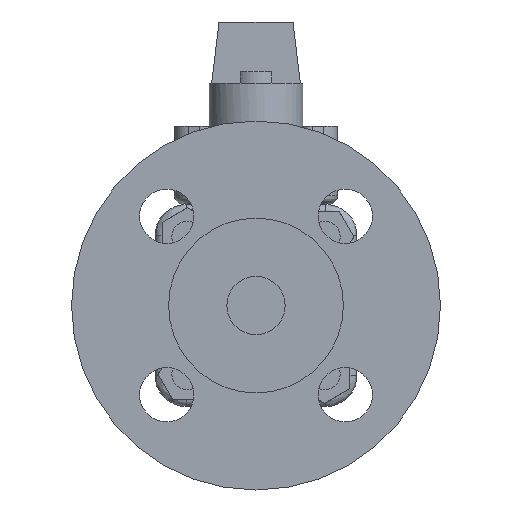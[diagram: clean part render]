
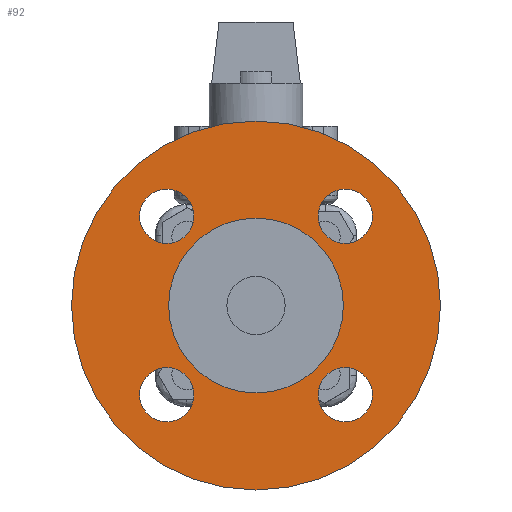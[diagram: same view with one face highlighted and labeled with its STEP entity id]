
A CAD part, left-side view. The second image highlights one B-rep face of the part: STEP entity #92.
In plain terms, the highlighted planar face has unit normal (-1, 0, 0).
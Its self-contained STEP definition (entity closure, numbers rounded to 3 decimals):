
#92=ADVANCED_FACE('',(#472,#473,#474,#475,#476,#477),#471,.T.);
#471=PLANE('',#2621);
#472=FACE_OUTER_BOUND('',#2622,.T.);
#473=FACE_BOUND('',#2623,.T.);
#474=FACE_BOUND('',#2624,.T.);
#475=FACE_BOUND('',#2625,.T.);
#476=FACE_BOUND('',#2626,.T.);
#477=FACE_BOUND('',#2627,.T.);
#2618=CARTESIAN_POINT('',(-66.3,-92.272,-105.));
#2619=DIRECTION('',(-1.,0.,0.));
#2620=DIRECTION('',(0.,0.,1.));
#2621=AXIS2_PLACEMENT_3D('',#2618,#2619,#2620);
#2622=EDGE_LOOP('',(#4212,#4213));
#2623=EDGE_LOOP('',(#4214,#4215));
#2624=EDGE_LOOP('',(#4216,#4217));
#2625=EDGE_LOOP('',(#4218,#4219));
#2626=EDGE_LOOP('',(#4220,#4221));
#2627=EDGE_LOOP('',(#4222,#4223));
#4212=ORIENTED_EDGE('',*,*,#5366,.T.);
#4213=ORIENTED_EDGE('',*,*,#5367,.T.);
#4214=ORIENTED_EDGE('',*,*,#5368,.F.);
#4215=ORIENTED_EDGE('',*,*,#5369,.F.);
#4216=ORIENTED_EDGE('',*,*,#5370,.F.);
#4217=ORIENTED_EDGE('',*,*,#5371,.F.);
#4218=ORIENTED_EDGE('',*,*,#5372,.F.);
#4219=ORIENTED_EDGE('',*,*,#5373,.F.);
#4220=ORIENTED_EDGE('',*,*,#5374,.F.);
#4221=ORIENTED_EDGE('',*,*,#5375,.F.);
#4222=ORIENTED_EDGE('',*,*,#5376,.F.);
#4223=ORIENTED_EDGE('',*,*,#5377,.F.);
#5366=EDGE_CURVE('',#6679,#6680,#6681,.T.);
#5367=EDGE_CURVE('',#6680,#6679,#6687,.T.);
#5368=EDGE_CURVE('',#6693,#6694,#6695,.T.);
#5369=EDGE_CURVE('',#6694,#6693,#6701,.T.);
#5370=EDGE_CURVE('',#6707,#6708,#6709,.T.);
#5371=EDGE_CURVE('',#6708,#6707,#6715,.T.);
#5372=EDGE_CURVE('',#6721,#6722,#6723,.T.);
#5373=EDGE_CURVE('',#6722,#6721,#6729,.T.);
#5374=EDGE_CURVE('',#6735,#6736,#6737,.T.);
#5375=EDGE_CURVE('',#6736,#6735,#6743,.T.);
#5376=EDGE_CURVE('',#6749,#6750,#6751,.T.);
#5377=EDGE_CURVE('',#6750,#6749,#6757,.T.);
#6679=VERTEX_POINT('',#10253);
#6680=VERTEX_POINT('',#10254);
#6681=CIRCLE('',#10258,47.5);
#6687=CIRCLE('',#10262,47.5);
#6693=VERTEX_POINT('',#10263);
#6694=VERTEX_POINT('',#10264);
#6695=CIRCLE('',#10268,7.);
#6701=CIRCLE('',#10272,7.);
#6707=VERTEX_POINT('',#10273);
#6708=VERTEX_POINT('',#10274);
#6709=CIRCLE('',#10278,7.);
#6715=CIRCLE('',#10282,7.);
#6721=VERTEX_POINT('',#10283);
#6722=VERTEX_POINT('',#10284);
#6723=CIRCLE('',#10288,7.);
#6729=CIRCLE('',#10292,7.);
#6735=VERTEX_POINT('',#10293);
#6736=VERTEX_POINT('',#10294);
#6737=CIRCLE('',#10298,7.);
#6743=CIRCLE('',#10302,7.);
#6749=VERTEX_POINT('',#10303);
#6750=VERTEX_POINT('',#10304);
#6751=CIRCLE('',#10308,22.5);
#6757=CIRCLE('',#10312,22.5);
#10253=CARTESIAN_POINT('',(-66.3,0.,47.5));
#10254=CARTESIAN_POINT('',(-66.3,0.,-47.5));
#10255=CARTESIAN_POINT('',(-66.3,0.,0.));
#10256=DIRECTION('',(-1.,0.,0.));
#10257=DIRECTION('',(0.,0.,1.));
#10258=AXIS2_PLACEMENT_3D('',#10255,#10256,#10257);
#10259=CARTESIAN_POINT('',(-66.3,0.,0.));
#10260=DIRECTION('',(-1.,0.,0.));
#10261=DIRECTION('',(0.,0.,1.));
#10262=AXIS2_PLACEMENT_3D('',#10259,#10260,#10261);
#10263=CARTESIAN_POINT('',(-66.3,22.981,-15.981));
#10264=CARTESIAN_POINT('',(-66.3,22.981,-29.981));
#10265=CARTESIAN_POINT('',(-66.3,22.981,-22.981));
#10266=DIRECTION('',(-1.,0.,0.));
#10267=DIRECTION('',(0.,0.,-1.));
#10268=AXIS2_PLACEMENT_3D('',#10265,#10266,#10267);
#10269=CARTESIAN_POINT('',(-66.3,22.981,-22.981));
#10270=DIRECTION('',(-1.,0.,0.));
#10271=DIRECTION('',(0.,0.,-1.));
#10272=AXIS2_PLACEMENT_3D('',#10269,#10270,#10271);
#10273=CARTESIAN_POINT('',(-66.3,-22.981,-29.981));
#10274=CARTESIAN_POINT('',(-66.3,-22.981,-15.981));
#10275=CARTESIAN_POINT('',(-66.3,-22.981,-22.981));
#10276=DIRECTION('',(-1.,0.,0.));
#10277=DIRECTION('',(0.,0.,1.));
#10278=AXIS2_PLACEMENT_3D('',#10275,#10276,#10277);
#10279=CARTESIAN_POINT('',(-66.3,-22.981,-22.981));
#10280=DIRECTION('',(-1.,0.,0.));
#10281=DIRECTION('',(0.,0.,1.));
#10282=AXIS2_PLACEMENT_3D('',#10279,#10280,#10281);
#10283=CARTESIAN_POINT('',(-66.3,-22.981,29.981));
#10284=CARTESIAN_POINT('',(-66.3,-22.981,15.981));
#10285=CARTESIAN_POINT('',(-66.3,-22.981,22.981));
#10286=DIRECTION('',(-1.,0.,0.));
#10287=DIRECTION('',(0.,0.,-1.));
#10288=AXIS2_PLACEMENT_3D('',#10285,#10286,#10287);
#10289=CARTESIAN_POINT('',(-66.3,-22.981,22.981));
#10290=DIRECTION('',(-1.,0.,0.));
#10291=DIRECTION('',(0.,0.,-1.));
#10292=AXIS2_PLACEMENT_3D('',#10289,#10290,#10291);
#10293=CARTESIAN_POINT('',(-66.3,22.981,15.981));
#10294=CARTESIAN_POINT('',(-66.3,22.981,29.981));
#10295=CARTESIAN_POINT('',(-66.3,22.981,22.981));
#10296=DIRECTION('',(-1.,0.,0.));
#10297=DIRECTION('',(0.,0.,1.));
#10298=AXIS2_PLACEMENT_3D('',#10295,#10296,#10297);
#10299=CARTESIAN_POINT('',(-66.3,22.981,22.981));
#10300=DIRECTION('',(-1.,0.,0.));
#10301=DIRECTION('',(0.,0.,1.));
#10302=AXIS2_PLACEMENT_3D('',#10299,#10300,#10301);
#10303=CARTESIAN_POINT('',(-66.3,0.,-22.5));
#10304=CARTESIAN_POINT('',(-66.3,0.,22.5));
#10305=CARTESIAN_POINT('',(-66.3,0.,0.));
#10306=DIRECTION('',(-1.,0.,0.));
#10307=DIRECTION('',(0.,0.,1.));
#10308=AXIS2_PLACEMENT_3D('',#10305,#10306,#10307);
#10309=CARTESIAN_POINT('',(-66.3,0.,0.));
#10310=DIRECTION('',(-1.,0.,0.));
#10311=DIRECTION('',(0.,0.,1.));
#10312=AXIS2_PLACEMENT_3D('',#10309,#10310,#10311);
